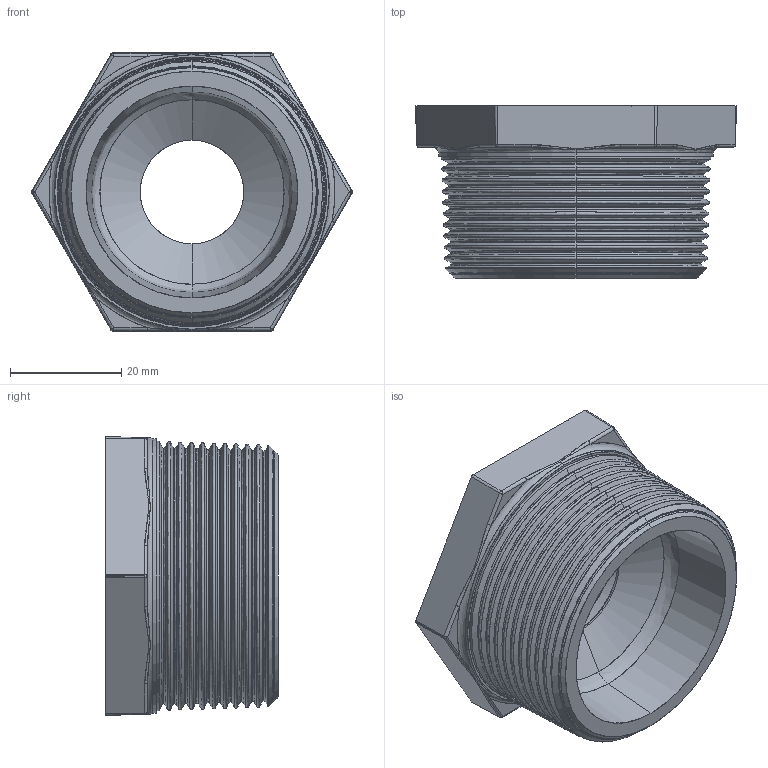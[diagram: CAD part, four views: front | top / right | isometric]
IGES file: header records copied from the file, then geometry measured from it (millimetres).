
Start section: SolidWorks IGES file using analytic representation for surfaces
Global section: file name: C:\Users\Joel Rosa\Desktop\Tubulação\12-01-OK\12-01-039.IGS; native system: SolidWorks 2011; preprocessor: SolidWorks 2011; author: Joel Rosa; date: 121203.200257; units: millimetre
Bounding box: 57.58 x 31 x 50 mm (x, y, z)
Surface area: 12962 mm2 (no closed solid volume)
Topology: 0 solids, 0 shells, 358 faces, 2869 edges, 2869 vertices
Faces by surface type: bspline 255, revolution 103
